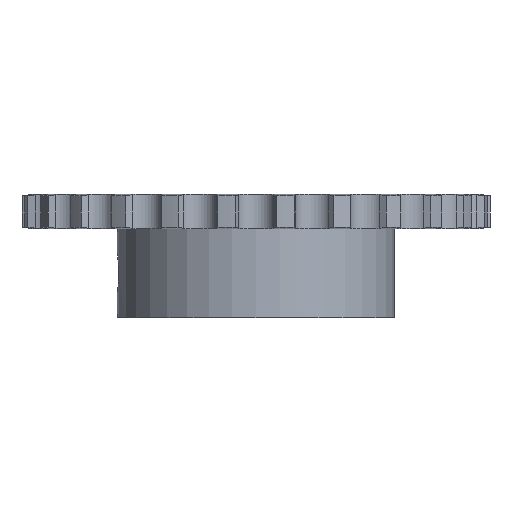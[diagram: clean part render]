
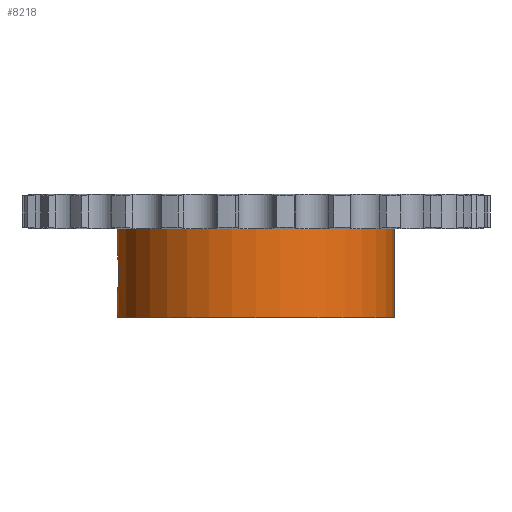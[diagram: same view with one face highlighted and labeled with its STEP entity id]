
A CAD part, front view. The second image highlights one B-rep face of the part: STEP entity #8218.
In plain terms, the highlighted cylindrical face has radius 45 mm (diameter 90 mm), a partial arc.
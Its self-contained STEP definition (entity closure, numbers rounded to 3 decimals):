
#1373=CARTESIAN_POINT('',(0.,0.,-5.55));
#1374=DIRECTION('',(0.,0.,1.));
#1375=DIRECTION('',(-1.,0.,0.));
#1376=AXIS2_PLACEMENT_3D('',#1373,#1374,#1375);
#4138=CARTESIAN_POINT('',(-45.,0.,
-14.));
#4163=DIRECTION('',(0.,0.,1.));
#4164=VECTOR('',#4163,28.9);
#4165=CARTESIAN_POINT('',(45.,0.,-34.45));
#4166=LINE('',#4165,#4164);
#4294=CARTESIAN_POINT('',(-45.,0.,
-14.));
#4295=CARTESIAN_POINT('',(-45.,-0.226,
-14.));
#4296=CARTESIAN_POINT('',(-44.996,-0.707,
-14.026));
#4297=CARTESIAN_POINT('',(-44.979,-1.435,
-14.151));
#4298=CARTESIAN_POINT('',(-44.95,-2.166,
-14.372));
#4299=CARTESIAN_POINT('',(-44.911,-2.863,
-14.679));
#4300=CARTESIAN_POINT('',(-44.864,-3.516,
-15.07));
#4301=CARTESIAN_POINT('',(-44.813,-4.114,
-15.537));
#4302=CARTESIAN_POINT('',(-44.761,-4.645,
-16.071));
#4303=CARTESIAN_POINT('',(-44.71,-5.103,
-16.662));
#4304=CARTESIAN_POINT('',(-44.665,-5.483,
-17.303));
#4305=CARTESIAN_POINT('',(-44.627,-5.78,-17.985));
#4306=CARTESIAN_POINT('',(-44.6,-5.988,
-18.694));
#4307=CARTESIAN_POINT('',(-44.585,-6.098,
-19.371));
#4308=CARTESIAN_POINT('',(-44.582,-6.119,
-19.806));
#4309=CARTESIAN_POINT('',(-44.582,-6.119,
-20.));
#4314=DIRECTION('',(0.,0.,1.));
#4315=VECTOR('',#4314,8.45);
#4316=CARTESIAN_POINT('',(-45.,0.,
-14.));
#4317=LINE('',#4316,#4315);
#4321=DIRECTION('',(0.,0.,1.));
#4322=VECTOR('',#4321,8.45);
#4323=CARTESIAN_POINT('',(-45.,0.,-34.45));
#4324=LINE('',#4323,#4322);
#4328=CARTESIAN_POINT('',(-44.582,-6.119,
-20.));
#4329=CARTESIAN_POINT('',(-44.582,-6.119,
-20.206));
#4330=CARTESIAN_POINT('',(-44.585,-6.096,
-20.651));
#4331=CARTESIAN_POINT('',(-44.601,-5.981,
-21.337));
#4332=CARTESIAN_POINT('',(-44.629,-5.77,
-22.042));
#4333=CARTESIAN_POINT('',(-44.667,-5.471,
-22.721));
#4334=CARTESIAN_POINT('',(-44.712,-5.09,
-23.358));
#4335=CARTESIAN_POINT('',(-44.762,-4.631,
-23.945));
#4336=CARTESIAN_POINT('',(-44.814,-4.1,
-24.474));
#4337=CARTESIAN_POINT('',(-44.865,-3.503,
-24.938));
#4338=CARTESIAN_POINT('',(-44.911,-2.852,
-25.326));
#4339=CARTESIAN_POINT('',(-44.95,-2.157,
-25.631));
#4340=CARTESIAN_POINT('',(-44.979,-1.429,
-25.85));
#4341=CARTESIAN_POINT('',(-44.996,-0.704,
-25.974));
#4342=CARTESIAN_POINT('',(-45.,-0.225,
-26.));
#4343=CARTESIAN_POINT('',(-45.,0.,
-26.));
#4356=CARTESIAN_POINT('',(0.,0.,-34.45));
#4357=DIRECTION('',(0.,0.,-1.));
#4358=DIRECTION('',(1.,0.,0.));
#4359=AXIS2_PLACEMENT_3D('',#4356,#4357,#4358);
#4793=CARTESIAN_POINT('',(-45.,0.,-34.45));
#4794=CARTESIAN_POINT('',(45.,0.,-34.45));
#4795=VERTEX_POINT('',#4793);
#4796=VERTEX_POINT('',#4794);
#4797=CARTESIAN_POINT('',(45.,0.,-5.55));
#4798=VERTEX_POINT('',#4797);
#4799=CARTESIAN_POINT('',(-45.,0.,-5.55));
#4800=VERTEX_POINT('',#4799);
#5080=VERTEX_POINT('',#4138);
#5083=VERTEX_POINT('',#4309);
#5085=VERTEX_POINT('',#4343);
#8202=CARTESIAN_POINT('',(0.,0.,5.55));
#8203=DIRECTION('',(0.,0.,1.));
#8204=DIRECTION('',(1.,0.,0.));
#8205=AXIS2_PLACEMENT_3D('',#8202,#8203,#8204);
#8206=CYLINDRICAL_SURFACE('',#8205,45.);
#8207=ORIENTED_EDGE('',*,*,#8192,.F.);
#8208=ORIENTED_EDGE('',*,*,#7723,.T.);
#8209=ORIENTED_EDGE('',*,*,#6512,.T.);
#8210=ORIENTED_EDGE('',*,*,#7720,.F.);
#8212=ORIENTED_EDGE('',*,*,#8211,.T.);
#8213=ORIENTED_EDGE('',*,*,#7716,.T.);
#8215=ORIENTED_EDGE('',*,*,#8214,.F.);
#8216=EDGE_LOOP('',(#8207,#8208,#8209,#8210,#8212,#8213,#8215));
#8217=FACE_OUTER_BOUND('',#8216,.F.);
#8218=ADVANCED_FACE('',(#8217),#8206,.T.);
#1377=CIRCLE('',#1376,45.);
#4310=B_SPLINE_CURVE_WITH_KNOTS('',3,(#4294,#4295,#4296,#4297,#4298,#4299,#4300,
#4301,#4302,#4303,#4304,#4305,#4306,#4307,#4308,#4309),.UNSPECIFIED.,.F.,.F.,(4,
1,1,1,1,1,1,1,1,1,1,1,1,4),(0.,0.07,0.149,
0.228,0.306,0.385,0.464,
0.542,0.621,0.7,0.778,
0.857,0.936,1.),.UNSPECIFIED.);
#4344=B_SPLINE_CURVE_WITH_KNOTS('',3,(#4328,#4329,#4330,#4331,#4332,#4333,#4334,
#4335,#4336,#4337,#4338,#4339,#4340,#4341,#4342,#4343),.UNSPECIFIED.,.F.,.F.,(4,
1,1,1,1,1,1,1,1,1,1,1,1,4),(0.,0.068,0.147,
0.225,0.303,0.382,0.46,
0.538,0.617,0.695,0.773,
0.852,0.93,1.),.UNSPECIFIED.);
#4360=CIRCLE('',#4359,45.);
#6512=EDGE_CURVE('',#4800,#4798,#1377,.T.);
#7716=EDGE_CURVE('',#4795,#5085,#4324,.T.);
#7720=EDGE_CURVE('',#4796,#4798,#4166,.T.);
#7723=EDGE_CURVE('',#5080,#4800,#4317,.T.);
#8192=EDGE_CURVE('',#5080,#5083,#4310,.T.);
#8211=EDGE_CURVE('',#4796,#4795,#4360,.T.);
#8214=EDGE_CURVE('',#5083,#5085,#4344,.T.);
